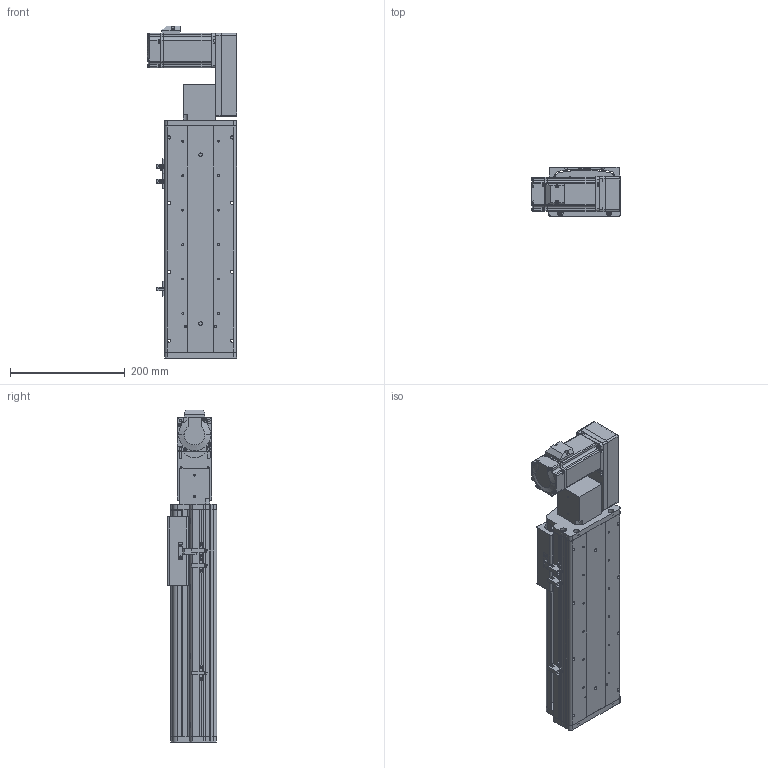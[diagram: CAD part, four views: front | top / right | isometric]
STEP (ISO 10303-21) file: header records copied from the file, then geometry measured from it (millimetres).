
FILE_DESCRIPTION (( 'STEP AP214' ), '1' );
FILE_NAME ('KSD125B-S200-MLB-CM.STEP', '2017-10-21T01:31:05', ( '微软用户' ), ( '微软中国' ), 'SwSTEP 2.0', 'SolidWorks 2014', '' );
FILE_SCHEMA (( 'AUTOMOTIVE_DESIGN' ));
Length unit declared in the file: millimetre
Products named in the file (20): KSD125模组200行程同步带-防尘盖; 125模组200行程同步带-底板; MHMD042G1CA_2_03; KSD125模组同步带-防撞垫2; 肮祭々湍揤沭1; 肮祭々湍揤沭_TBCR-S5M250; 覜茼え68遵圉猾敕; U倰嫖萇假蚾璃; U倰嫖萇EEㄜSX672; KSD125模组-防尘板支撑座1; KSD125模组同步带-防撞垫1; 前端板-125宽模组同步带; 125模组同步带-尾端板1; KSD125模组同步带-滑动座1; 悵誘欶奻狟殏; KSD125B-S200-MLB-CM; HTPA30S3M150_A_H6_a佪裝蚚; HTPA30S3M150_A_H6_a萇儂蚚; 100宽马达安装板连板上下折丝杆同步带; 100宽马达安装板同步带左
Assembly tree (25 placements, depth 2):
  KSD125B-S200-MLB-CM
    KSD125模组同步带-滑动座1
    125模组同步带-尾端板1
    前端板-125宽模组同步带
    KSD125模组同步带-防撞垫1
    KSD125模组-防尘板支撑座1
    U倰嫖萇EEㄜSX672  x3
    U倰嫖萇假蚾璃  x3
    覜茼え68遵圉猾敕
    肮祭々湍揤沭_TBCR-S5M250  x2
    肮祭々湍揤沭1  x2
    KSD125模组同步带-防撞垫2
    MHMD042G1CA_2_03
    125模组200行程同步带-底板
    KSD125模组200行程同步带-防尘盖
    100宽马达安装板同步带左
    100宽马达安装板连板上下折丝杆同步带
    HTPA30S3M150_A_H6_a萇儂蚚
    HTPA30S3M150_A_H6_a佪裝蚚
    悵誘欶奻狟殏
Bounding box: 155 x 86 x 578 mm (x, y, z)
Volume: 1804062 mm3; surface area: 658923.4 mm2
Topology: 24 solids, 27 shells, 2363 faces, 6839 edges, 4518 vertices
Faces by surface type: cylinder 1444, plane 782, cone 115, bspline 22
Entity records: 81219 total; most frequent: CARTESIAN_POINT 16170, DIRECTION 12632, ORIENTED_EDGE 11798, EDGE_CURVE 5977, AXIS2_PLACEMENT_3D 4848, VERTEX_POINT 3978, VECTOR 2936, LINE 2936
